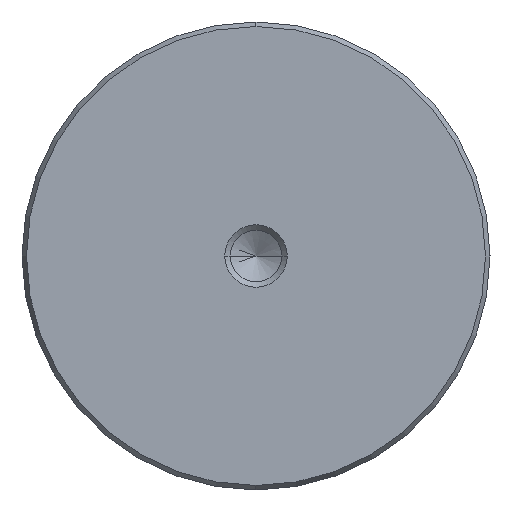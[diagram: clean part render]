
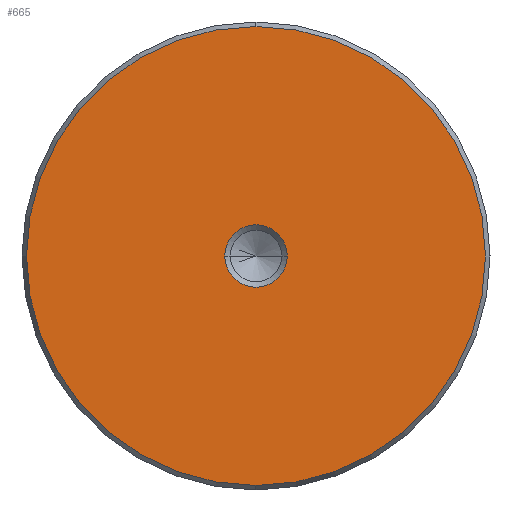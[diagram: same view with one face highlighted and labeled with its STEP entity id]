
A CAD part, left-side view. The second image highlights one B-rep face of the part: STEP entity #665.
In plain terms, the highlighted planar face has unit normal (-1, 0, 0).
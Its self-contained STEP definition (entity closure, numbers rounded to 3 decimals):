
#579=CARTESIAN_POINT('Vertex',(0.,0.,-29.423)) ;
#582=CARTESIAN_POINT('Axis2P3D Location',(0.,0.,0.)) ;
#586=CARTESIAN_POINT('Vertex',(0.,29.423,0.)) ;
#589=CARTESIAN_POINT('Axis2P3D Location',(0.,0.,0.)) ;
#593=CARTESIAN_POINT('Vertex',(0.,0.,29.423)) ;
#615=CARTESIAN_POINT('Axis2P3D Location',(0.,0.,0.)) ;
#619=CARTESIAN_POINT('Vertex',(0.,-29.423,0.)) ;
#622=CARTESIAN_POINT('Axis2P3D Location',(0.,0.,0.)) ;
#636=CARTESIAN_POINT('Axis2P3D Location',(0.,0.,0.)) ;
#647=CARTESIAN_POINT('Axis2P3D Location',(0.,0.,0.)) ;
#651=CARTESIAN_POINT('Vertex',(0.,4.,0.)) ;
#653=CARTESIAN_POINT('Vertex',(0.,-4.,0.)) ;
#656=CARTESIAN_POINT('Axis2P3D Location',(0.,0.,0.)) ;
#583=DIRECTION('Axis2P3D Direction',(1.,0.,-0.)) ;
#590=DIRECTION('Axis2P3D Direction',(1.,0.,-0.)) ;
#616=DIRECTION('Axis2P3D Direction',(1.,0.,-0.)) ;
#623=DIRECTION('Axis2P3D Direction',(1.,0.,-0.)) ;
#637=DIRECTION('Axis2P3D Direction',(1.,0.,-0.)) ;
#638=DIRECTION('Axis2P3D XDirection',(-0.,0.,-1.)) ;
#648=DIRECTION('Axis2P3D Direction',(1.,0.,-0.)) ;
#657=DIRECTION('Axis2P3D Direction',(1.,0.,-0.)) ;
#584=AXIS2_PLACEMENT_3D('Circle Axis2P3D',#582,#583,$) ;
#591=AXIS2_PLACEMENT_3D('Circle Axis2P3D',#589,#590,$) ;
#617=AXIS2_PLACEMENT_3D('Circle Axis2P3D',#615,#616,$) ;
#624=AXIS2_PLACEMENT_3D('Circle Axis2P3D',#622,#623,$) ;
#639=AXIS2_PLACEMENT_3D('Plane Axis2P3D',#636,#637,#638) ;
#649=AXIS2_PLACEMENT_3D('Circle Axis2P3D',#647,#648,$) ;
#658=AXIS2_PLACEMENT_3D('Circle Axis2P3D',#656,#657,$) ;
#642=ORIENTED_EDGE('',*,*,#588,.F.) ;
#643=ORIENTED_EDGE('',*,*,#626,.F.) ;
#644=ORIENTED_EDGE('',*,*,#621,.F.) ;
#645=ORIENTED_EDGE('',*,*,#595,.F.) ;
#662=ORIENTED_EDGE('',*,*,#655,.T.) ;
#663=ORIENTED_EDGE('',*,*,#660,.T.) ;
#664=FACE_BOUND('',#661,.T.) ;
#665=ADVANCED_FACE('720-60x355',(#646,#664),#640,.F.) ;
#585=CIRCLE('generated circle',#584,29.423) ;
#592=CIRCLE('generated circle',#591,29.423) ;
#618=CIRCLE('generated circle',#617,29.423) ;
#625=CIRCLE('generated circle',#624,29.423) ;
#650=CIRCLE('generated circle',#649,4.) ;
#659=CIRCLE('generated circle',#658,4.) ;
#588=EDGE_CURVE('',#580,#587,#585,.T.) ;
#595=EDGE_CURVE('',#587,#594,#592,.T.) ;
#621=EDGE_CURVE('',#594,#620,#618,.T.) ;
#626=EDGE_CURVE('',#620,#580,#625,.T.) ;
#655=EDGE_CURVE('',#652,#654,#650,.T.) ;
#660=EDGE_CURVE('',#654,#652,#659,.T.) ;
#641=EDGE_LOOP('',(#642,#643,#644,#645)) ;
#661=EDGE_LOOP('',(#662,#663)) ;
#646=FACE_OUTER_BOUND('',#641,.T.) ;
#640=PLANE('Plane',#639) ;
#580=VERTEX_POINT('',#579) ;
#587=VERTEX_POINT('',#586) ;
#594=VERTEX_POINT('',#593) ;
#620=VERTEX_POINT('',#619) ;
#652=VERTEX_POINT('',#651) ;
#654=VERTEX_POINT('',#653) ;
